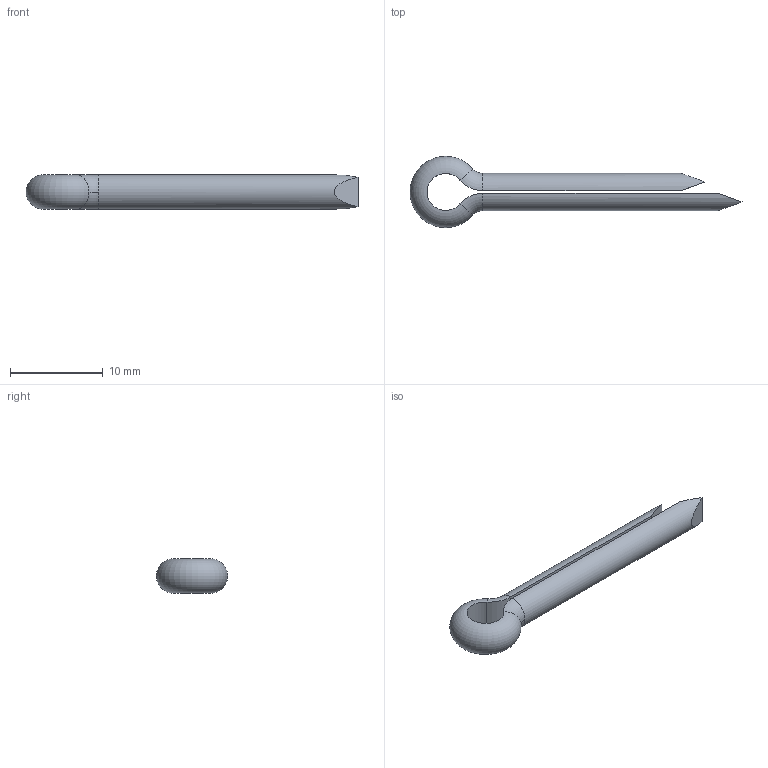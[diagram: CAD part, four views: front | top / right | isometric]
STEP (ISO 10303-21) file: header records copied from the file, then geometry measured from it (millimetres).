
FILE_DESCRIPTION (( 'STEP AP203' ), '1' );
FILE_NAME ('Default.step', '2014-01-07T16:35:15', ( 'User' ), ( '' ), 'SwSTEP 2.0', 'SolidWorks 2009', '' );
FILE_SCHEMA (( 'CONFIG_CONTROL_DESIGN' ));
Length unit declared in the file: millimetre
Products named in the file (1): Default
Bounding box: 35.85 x 7.7 x 3.7 mm (x, y, z)
Volume: 362.6 mm3; surface area: 657.4 mm2
Topology: 1 solids, 1 shells, 16 faces, 34 edges, 20 vertices
Faces by surface type: plane 6, torus 5, cylinder 5
Entity records: 507 total; most frequent: CARTESIAN_POINT 89, DIRECTION 78, ORIENTED_EDGE 68, EDGE_CURVE 34, AXIS2_PLACEMENT_3D 33, VERTEX_POINT 20, ADVANCED_FACE 16, EDGE_LOOP 16
